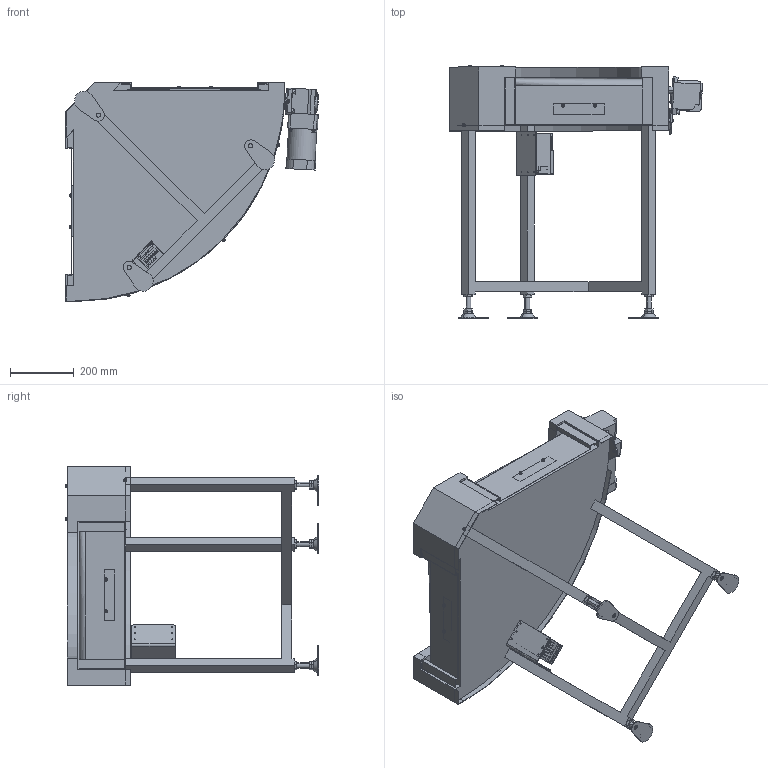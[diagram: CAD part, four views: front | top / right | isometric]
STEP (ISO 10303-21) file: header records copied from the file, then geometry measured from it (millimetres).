
FILE_DESCRIPTION( (''), '2;1');
FILE_NAME ('MBC2H-HS-309-400-90°-R-IVH-60-O.stp','2025-02-17T11:06:26',(''),(''),'spGate 20.6.2 (****-****-****-****)','','');
FILE_SCHEMA (('AUTOMOTIVE_DESIGN'));
Length unit declared in the file: millimetre
Products named in the file (36): NewModel; MBC2H-HS-309-400-90°-R-IVH-60-O; TEMP_X_T-prt0; TEMP_X_T-prt1; TEMP_X_T-prt2; TEMP_X_T-prt3; TEMP_X_T-prt4; TEMP_X_T-prt5; TEMP_X_T-prt6; TEMP_X_T-prt7; TEMP_X_T-prt8; TEMP_X_T-prt9; TEMP_X_T-prt10; TEMP_X_T-prt11; TEMP_X_T-prt12; TEMP_X_T-prt13; TEMP_X_T-prt14; TEMP_X_T-prt15; TEMP_X_T-prt16; TEMP_X_T-prt17; TEMP_X_T-prt18; TEMP_X_T-prt19; TEMP_X_T-prt20; TEMP_X_T-prt21; TEMP_X_T-prt22; TEMP_X_T-prt23; TEMP_X_T-prt24; TEMP_X_T-prt25; TEMP_X_T-prt26; TEMP_X_T-prt27; TEMP_X_T-prt28; TEMP_X_T-prt29; TEMP_X_T-prt30; TEMP_X_T-prt31; TEMP_X_T-prt32; TEMP_X_T-prt33
Assembly tree (35 placements, depth 3):
  NewModel
    MBC2H-HS-309-400-90°-R-IVH-60-O
      TEMP_X_T-prt0
      TEMP_X_T-prt1
      TEMP_X_T-prt2
      TEMP_X_T-prt3
      TEMP_X_T-prt4
      TEMP_X_T-prt5
      TEMP_X_T-prt6
      TEMP_X_T-prt7
      TEMP_X_T-prt8
      TEMP_X_T-prt9
      TEMP_X_T-prt10
      TEMP_X_T-prt11
      TEMP_X_T-prt12
      TEMP_X_T-prt13
      TEMP_X_T-prt14
      TEMP_X_T-prt15
      TEMP_X_T-prt16
      TEMP_X_T-prt17
      TEMP_X_T-prt18
      TEMP_X_T-prt19
      TEMP_X_T-prt20
      TEMP_X_T-prt21
      TEMP_X_T-prt22
      TEMP_X_T-prt23
      TEMP_X_T-prt24
      TEMP_X_T-prt25
      TEMP_X_T-prt26
      TEMP_X_T-prt27
      TEMP_X_T-prt28
      TEMP_X_T-prt29
      TEMP_X_T-prt30
      TEMP_X_T-prt31
      TEMP_X_T-prt32
      TEMP_X_T-prt33
Bounding box: 792.78 x 794.6 x 688.1 mm (x, y, z)
Volume: 39837679.7 mm3; surface area: 2896902.5 mm2
Topology: 34 solids, 34 shells, 1621 faces, 4029 edges, 2605 vertices
Faces by surface type: plane 1120, cylinder 322, bspline 173, sphere 6
Entity records: 85874 total; most frequent: CARTESIAN_POINT 14798, ORIENTED_EDGE 8010, DIRECTION 7344, COLOUR_RGB 5660, PRESENTATION_STYLE_ASSIGNMENT 5660, STYLED_ITEM 5660, EDGE_CURVE 4005, DRAUGHTING_PRE_DEFINED_CURVE_FONT 4005
